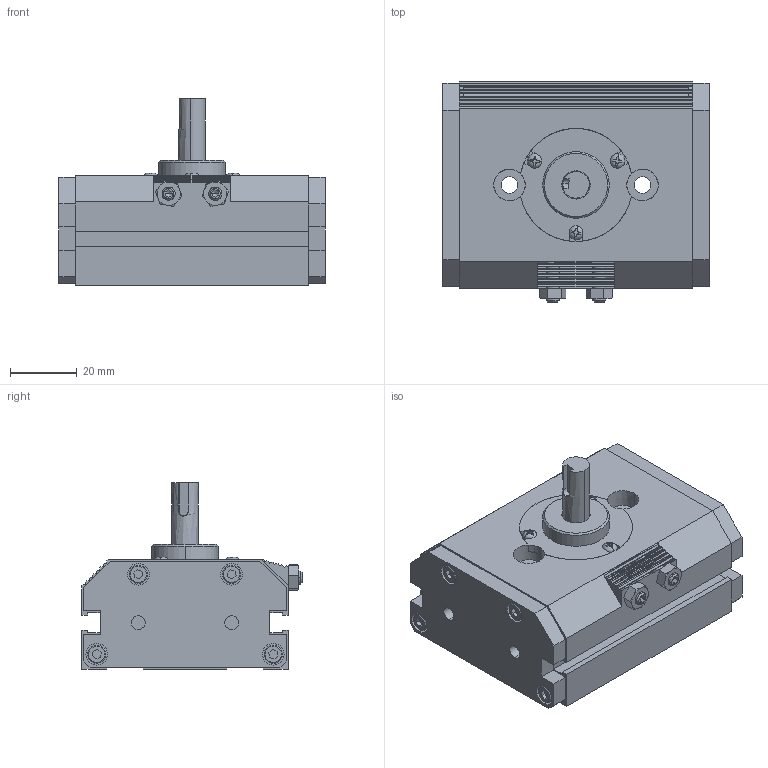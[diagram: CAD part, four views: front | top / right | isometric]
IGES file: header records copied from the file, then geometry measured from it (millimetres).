
Start section: 3D InterOp IGES (v. 2022 1.0.0), Spatial Corp. Copyright (c) 1999-2020.
Global section: file name: ZRB-20A-R2v2.igs; native system: Spatial Corp.; preprocessor: 3D InterOp GENERIC/IGES 3.0; author: Noname; organization: Noname; date: 20241128.093902; units: millimetre
Bounding box: 80 x 66.2 x 56 mm (x, y, z)
Surface area: 40433.6 mm2 (no closed solid volume)
Topology: 0 solids, 0 shells, 680 faces, 3450 edges, 3424 vertices
Faces by surface type: extrusion 424, revolution 256
